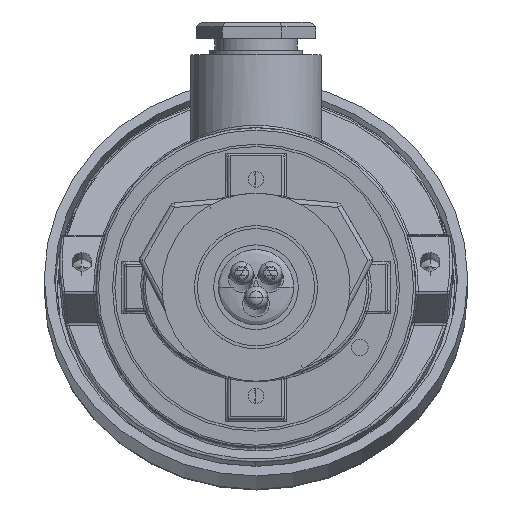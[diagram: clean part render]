
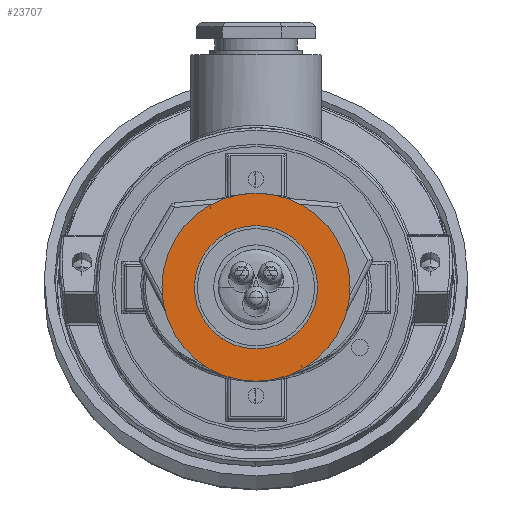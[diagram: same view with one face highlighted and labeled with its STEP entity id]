
A CAD part, top view. The second image highlights one B-rep face of the part: STEP entity #23707.
In plain terms, the highlighted planar face has unit normal (0, 0, 1) as drawn and (1, 0, 0) by its records, which use the part's own axes.
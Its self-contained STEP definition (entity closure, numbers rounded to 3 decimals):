
#395 = CARTESIAN_POINT ( 'NONE',  ( 40., 0., -13.1 ) ) ;
#504 = AXIS2_PLACEMENT_3D ( 'NONE', #515, #13959, #2443 ) ;
#515 = CARTESIAN_POINT ( 'NONE',  ( 40., 0., 0. ) ) ;
#609 = AXIS2_PLACEMENT_3D ( 'NONE', #15560, #4046, #17478 ) ;
#949 = EDGE_LOOP ( 'NONE', ( #14522, #23200 ) ) ;
#2118 = CIRCLE ( 'NONE', #12575, 20. ) ;
#2443 = DIRECTION ( 'NONE',  ( 0., 0., 1. ) ) ;
#2526 = DIRECTION ( 'NONE',  ( -1., 0., 0. ) ) ;
#2827 = VERTEX_POINT ( 'NONE', #21382 ) ;
#2986 = EDGE_CURVE ( 'NONE', #15579, #2827, #8893, .T. ) ;
#3158 = FACE_BOUND ( 'NONE', #949, .T. ) ;
#3204 = CIRCLE ( 'NONE', #504, 13.1 ) ;
#4046 = DIRECTION ( 'NONE',  ( -1., 0., 0. ) ) ;
#4119 = CIRCLE ( 'NONE', #5371, 20. ) ;
#5268 = EDGE_CURVE ( 'NONE', #7110, #7817, #4119, .T. ) ;
#5371 = AXIS2_PLACEMENT_3D ( 'NONE', #14025, #2526, #15957 ) ;
#5520 = EDGE_LOOP ( 'NONE', ( #11685, #6276 ) ) ;
#6276 = ORIENTED_EDGE ( 'NONE', *, *, #5268, .F. ) ;
#7110 = VERTEX_POINT ( 'NONE', #12177 ) ;
#7648 = DIRECTION ( 'NONE',  ( -1., 0., 0. ) ) ;
#7817 = VERTEX_POINT ( 'NONE', #20701 ) ;
#8893 = CIRCLE ( 'NONE', #609, 13.1 ) ;
#11685 = ORIENTED_EDGE ( 'NONE', *, *, #14411, .F. ) ;
#11707 = DIRECTION ( 'NONE',  ( 0., 0., 1. ) ) ;
#12177 = CARTESIAN_POINT ( 'NONE',  ( 40., 0., -20. ) ) ;
#12575 = AXIS2_PLACEMENT_3D ( 'NONE', #19164, #7648, #21077 ) ;
#13959 = DIRECTION ( 'NONE',  ( -1., 0., 0. ) ) ;
#14025 = CARTESIAN_POINT ( 'NONE',  ( 40., 0., 0. ) ) ;
#14411 = EDGE_CURVE ( 'NONE', #7817, #7110, #2118, .T. ) ;
#14522 = ORIENTED_EDGE ( 'NONE', *, *, #16054, .T. ) ;
#15560 = CARTESIAN_POINT ( 'NONE',  ( 40., 0., 0. ) ) ;
#15579 = VERTEX_POINT ( 'NONE', #395 ) ;
#15957 = DIRECTION ( 'NONE',  ( 0., 0., 1. ) ) ;
#16054 = EDGE_CURVE ( 'NONE', #2827, #15579, #3204, .T. ) ;
#17478 = DIRECTION ( 'NONE',  ( 0., 0., 1. ) ) ;
#19164 = CARTESIAN_POINT ( 'NONE',  ( 40., 0., 0. ) ) ;
#19358 = PLANE ( 'NONE',  #20953 ) ;
#20701 = CARTESIAN_POINT ( 'NONE',  ( 40., 0., 20. ) ) ;
#20953 = AXIS2_PLACEMENT_3D ( 'NONE', #21252, #23205, #11707 ) ;
#21077 = DIRECTION ( 'NONE',  ( 0., 0., 1. ) ) ;
#21252 = CARTESIAN_POINT ( 'NONE',  ( 40., 13.1, 0. ) ) ;
#21382 = CARTESIAN_POINT ( 'NONE',  ( 40., 0., 13.1 ) ) ;
#22959 = FACE_OUTER_BOUND ( 'NONE', #5520, .T. ) ;
#23200 = ORIENTED_EDGE ( 'NONE', *, *, #2986, .T. ) ;
#23205 = DIRECTION ( 'NONE',  ( -1., 0., 0. ) ) ;
#23707 = ADVANCED_FACE ( 'NONE', ( #22959, #3158 ), #19358, .F. ) ;
